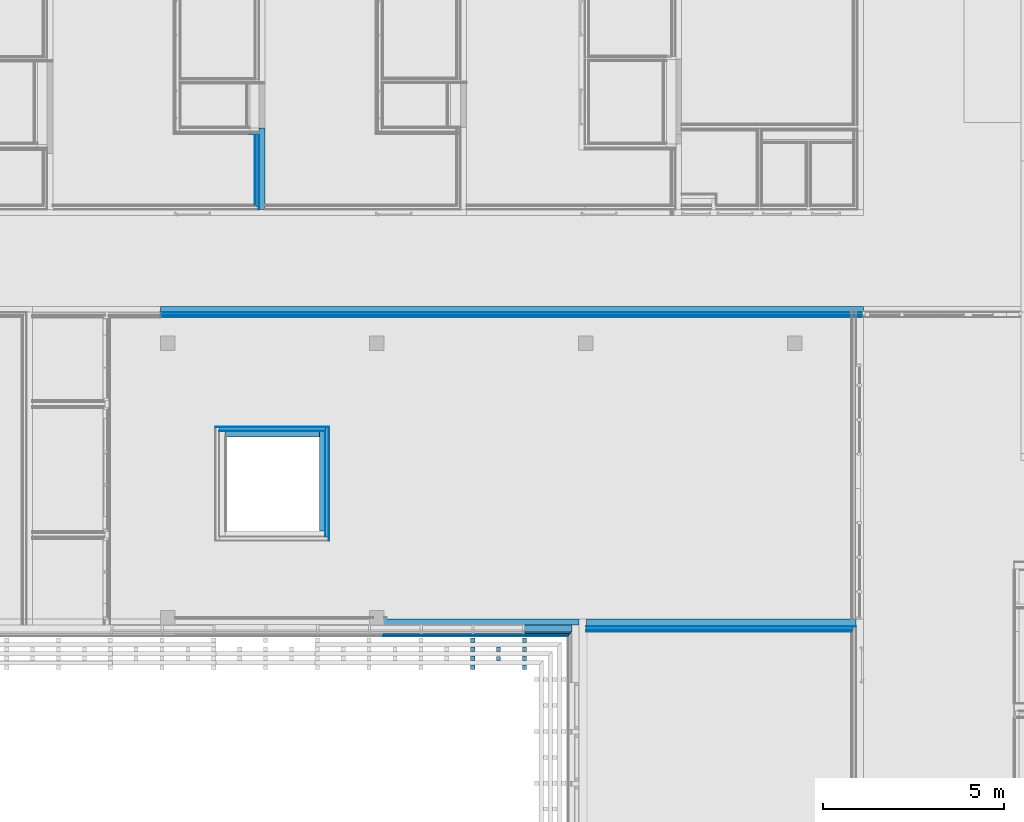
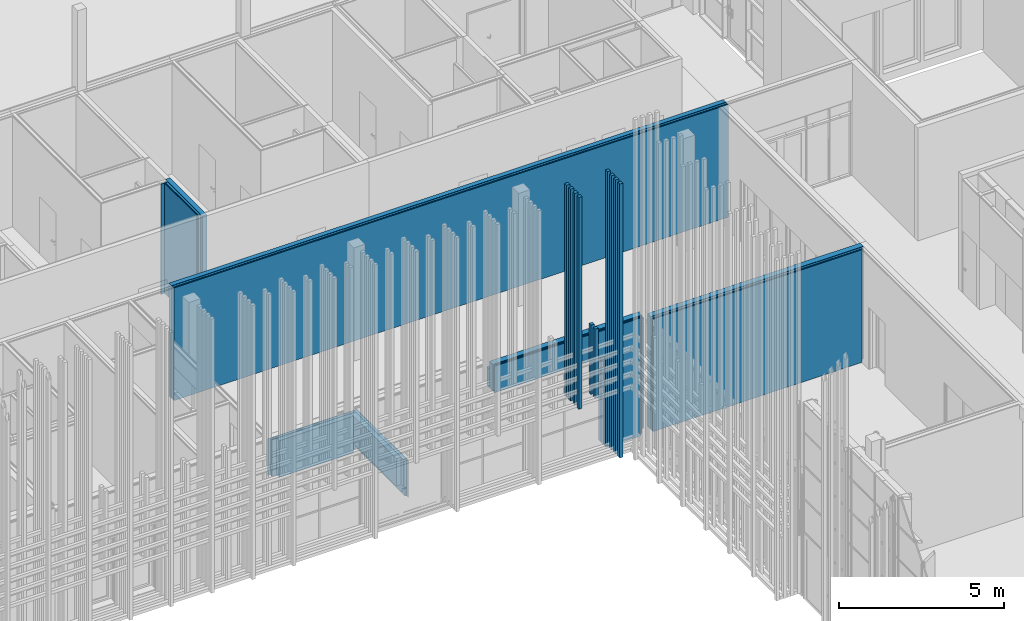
# One storey, part 160 of 260: 35 building element parts, 3 discrete accessories, 1 opening, 7 elements without a shape of their own.
"""IFC2X3 building model written with IfcOpenShell, lengths in millimetres."""

import ifcopenshell
import ifcopenshell.guid

model = None  # the IFC model being written
_history = None  # IfcOwnerHistory: only IFC2X3 demands one
_inside = {}  # id of a spatial element -> (the spatial element, [elements in it])
_under = {}  # id of a project, library or spatial element -> (it, [spatial elements below it])
_declared = {}  # id of a project -> (the project, [libraries it declares])
_typed = {}  # id of a type object -> (the type object, [elements of that type])
_made_of = {}  # id of a material, layer set ... -> (it, [elements and type objects made of it])


def new_model(schema):
    """Start an empty IFC model of exactly this schema.

    Asked for "IFC4X3", IfcOpenShell would pick the latest addendum, in which some entities
    have other attributes; the version numbers below select the first issue.
    IFC2X3 requires an IfcOwnerHistory on every rooted entity: one is made here for all.
    """
    global model, _history
    if schema == "IFC4X3":
        model = ifcopenshell.file(schema_version=(4, 3, 0, 0))
    else:
        model = ifcopenshell.file(schema=schema)
    _inside.clear()
    _under.clear()
    _declared.clear()
    _typed.clear()
    _made_of.clear()
    _history = None
    if model.schema == "IFC2X3":
        org = make("IfcOrganization", Name="unknown")
        user = make(
            "IfcPersonAndOrganization",
            ThePerson=make("IfcPerson", FamilyName="unknown"),
            TheOrganization=org,
        )
        app = make(
            "IfcApplication",
            ApplicationDeveloper=org,
            Version="unknown",
            ApplicationFullName="unknown",
            ApplicationIdentifier="unknown",
        )
        _history = make(
            "IfcOwnerHistory",
            OwningUser=user,
            OwningApplication=app,
            ChangeAction="ADDED",
            CreationDate=0,
        )
    return model


def make(cls, **values):
    """One entity of the class cls with the attributes given. An attribute that is None is left unset."""
    return model.create_entity(
        cls, **{name: value for name, value in values.items() if value is not None}
    )


def entity(cls, *values):
    """Any entity or typed value of the class cls, its attributes in the order of the schema. None: left unset."""
    e = model.create_entity(cls)
    for i, value in enumerate(values):
        if value is not None:
            e[i] = value
    return e


def rooted(cls, **values):
    """An entity with a GlobalId (a new one), such as an element, a storey or a relation."""
    return make(cls, GlobalId=ifcopenshell.guid.new(), OwnerHistory=_history, **values)


def si_unit(unit_type, name, prefix=None):
    """IfcSIUnit, for example si_unit("LENGTHUNIT", "METRE", prefix="MILLI")."""
    return make("IfcSIUnit", UnitType=unit_type, Prefix=prefix, Name=name)


def converted_unit(unit_type, name, factor, base, dimensions=None, offset=None):
    """IfcConversionBasedUnit, such as the inch: factor (a typed value) times the base unit."""
    return make(
        "IfcConversionBasedUnit"
        if offset is None
        else "IfcConversionBasedUnitWithOffset",
        ConversionOffset=offset,
        Dimensions=None
        if dimensions is None
        else entity("IfcDimensionalExponents", *dimensions),
        UnitType=unit_type,
        Name=name,
        ConversionFactor=make(
            "IfcMeasureWithUnit", ValueComponent=factor, UnitComponent=base
        ),
    )


def derived_unit(unit_type, elements):
    """IfcDerivedUnit: a product of units, each with its exponent."""
    return make(
        "IfcDerivedUnit",
        Elements=[
            make("IfcDerivedUnitElement", Unit=unit, Exponent=power)
            for unit, power in elements
        ],
        UnitType=unit_type,
    )


def money_unit(currency):
    """IfcMonetaryUnit."""
    return make("IfcMonetaryUnit", Currency=currency)


def assignment(units):
    """IfcUnitAssignment: the units of a project."""
    return None if units is None else make("IfcUnitAssignment", Units=units)


def point(xyz):
    """IfcCartesianPoint."""
    return None if xyz is None else make("IfcCartesianPoint", Coordinates=xyz)


def direction(xyz):
    """IfcDirection."""
    return None if xyz is None else make("IfcDirection", DirectionRatios=xyz)


def frame(location, z_axis=None, x_axis=None):
    """IfcAxis2Placement3D, a coordinate frame: its origin and axes. An axis left out is left unset."""
    return make(
        "IfcAxis2Placement3D",
        Location=point(location),
        Axis=direction(z_axis),
        RefDirection=direction(x_axis),
    )


def origin_with_axes():
    """The frame at (0, 0, 0) with the z axis (0, 0, 1) and the x axis (1, 0, 0) written out."""
    return frame((0.0, 0.0, 0.0), z_axis=(0.0, 0.0, 1.0), x_axis=(1.0, 0.0, 0.0))


def place(relative_to, where):
    """IfcLocalPlacement: puts the frame where relative to a parent placement (None: the world)."""
    return make(
        "IfcLocalPlacement", PlacementRelTo=relative_to, RelativePlacement=where
    )


def context(
    kind, dimensions, precision=None, world=None, true_north=None, identifier=None
):
    """IfcGeometricRepresentationContext, for example the 3D "Model" context."""
    return make(
        "IfcGeometricRepresentationContext",
        ContextIdentifier=identifier,
        ContextType=kind,
        CoordinateSpaceDimension=dimensions,
        Precision=precision,
        WorldCoordinateSystem=world,
        TrueNorth=true_north,
    )


def subcontext(parent, identifier, kind, view, scale=None):
    """IfcGeometricRepresentationSubContext, for example "Body" below "Model"."""
    return make(
        "IfcGeometricRepresentationSubContext",
        ContextIdentifier=identifier,
        ContextType=kind,
        ParentContext=parent,
        TargetScale=scale,
        TargetView=view,
    )


def project(units=None, contexts=None):
    """IfcProject with its units and contexts."""
    return rooted(
        "IfcProject",
        Name="project",
        RepresentationContexts=contexts,
        UnitsInContext=assignment(units),
    )


def spatial(cls, under=None, at=None, **own):
    """A site, building, storey or space (cls), placed at a placement, below another one or the project."""
    s = rooted(cls, ObjectPlacement=at, **own)
    if under is not None:
        _under.setdefault(under.id(), (under, []))[1].append(s)
    return s


def faces_of(points, faces, orient=None, outer=None):
    """IfcFace entities. A face is a list of loops; a loop is a list of indices into points, from 0.

    orient and outer hold one flag for each loop. By default every Orientation is true, the
    first loop of a face is its IfcFaceOuterBound and the others are IfcFaceBound.
    """
    made = []
    for i, loops in enumerate(faces):
        bounds = []
        for j, loop in enumerate(loops):
            is_outer = j == 0 if outer is None else outer[i][j]
            bounds.append(
                make(
                    "IfcFaceOuterBound" if is_outer else "IfcFaceBound",
                    Bound=make("IfcPolyLoop", Polygon=[points[k] for k in loop]),
                    Orientation=True if orient is None else orient[i][j],
                )
            )
        made.append(make("IfcFace", Bounds=bounds))
    return made


def faceted_brep(points, faces, orient=None, outer=None, voids=None):
    """IfcFacetedBrep: a solid bounded by flat faces; with voids (closed shells), ...WithVoids."""
    shared = [point(p) for p in points]
    hull = make("IfcClosedShell", CfsFaces=faces_of(shared, faces, orient, outer))
    if voids is None:
        return make("IfcFacetedBrep", Outer=hull)
    return make(
        "IfcFacetedBrepWithVoids",
        Outer=hull,
        Voids=[
            make(cls, CfsFaces=faces_of(shared, fs, o, b)) for cls, fs, o, b in voids
        ],
    )


def shape(context_of_items, identifier, shape_type, items):
    """IfcShapeRepresentation: the items that make up one representation, for example the "Body"."""
    return make(
        "IfcShapeRepresentation",
        ContextOfItems=context_of_items,
        RepresentationIdentifier=identifier,
        RepresentationType=shape_type,
        Items=items,
    )


def material(Name=None, Category=None):
    """IfcMaterial."""
    return make("IfcMaterial", Name=Name, Category=Category)


def material_list(materials):
    """IfcMaterialList."""
    return make("IfcMaterialList", Materials=materials)


def made_of(thing, what):
    """Note that an element or type object is made of a material, layer set ...; save() writes the relation."""
    if what is not None:
        _made_of.setdefault(what.id(), (what, []))[1].append(thing)
    return thing


def type_object(cls, material=None, **own):
    """A type object (cls), such as IfcWallType, which elements share."""
    return made_of(rooted(cls, **own), material)


def element(
    cls,
    number,
    at=None,
    inside=None,
    cuts=None,
    type_object=None,
    material=None,
    context=None,
    identifier="Body",
    shape_type=None,
    held_by="IfcProductDefinitionShape",
    body=None,
    shapes=None,
    **own,
):
    """One element of the class cls, such as IfcWall. Its Tag is "e" and its number.

    at: its placement. inside: the storey or other place that contains it. cuts: it is an
    opening in that element (IfcRelVoidsElement). A single representation is given by context,
    identifier, shape_type and body (its items); several are given by shapes. held_by: the class
    of the entity that holds the representations. save() writes the other relations.
    """
    e = rooted(cls, Tag="e%d" % number, ObjectPlacement=at, **own)
    if body is not None:
        shapes = [shape(context, identifier, shape_type, body)]
    if shapes is not None:
        e.Representation = make(held_by, Representations=shapes)
    if inside is not None:
        _inside.setdefault(inside.id(), (inside, []))[1].append(e)
    if cuts is not None:
        rooted(
            "IfcRelVoidsElement", RelatingBuildingElement=cuts, RelatedOpeningElement=e
        )
    if type_object is not None:
        _typed.setdefault(type_object.id(), (type_object, []))[1].append(e)
    return made_of(e, material)


def aggregate(whole, parts):
    """IfcRelAggregates: a whole, such as a stair, and the parts it consists of."""
    return rooted("IfcRelAggregates", RelatingObject=whole, RelatedObjects=parts)


def save(model, path):
    """Write the relations noted so far, then the file.

    IfcRelAggregates (storeys below a building ...), IfcRelContainedInSpatialStructure (elements
    in a storey), IfcRelDefinesByType, IfcRelAssociatesMaterial and IfcRelDeclares: one each for
    every whole, place, type object, material and project.
    """
    for whole, parts in _under.values():
        aggregate(whole, parts)
    for where, things in _inside.values():
        rooted(
            "IfcRelContainedInSpatialStructure",
            RelatedElements=things,
            RelatingStructure=where,
        )
    for kind, things in _typed.values():
        rooted("IfcRelDefinesByType", RelatedObjects=things, RelatingType=kind)
    for what, things in _made_of.values():
        rooted("IfcRelAssociatesMaterial", RelatedObjects=things, RelatingMaterial=what)
    for by, libraries in _declared.values():
        rooted("IfcRelDeclares", RelatingContext=by, RelatedDefinitions=libraries)
    model.write(path)


model = new_model("IFC2X3")

# Units and contexts
model_context = context("Model", 3, precision=0.01, world=origin_with_axes(), true_north=direction((0.0, 1.0)))
body_context = subcontext(model_context, "Body", "Model", "MODEL_VIEW")
ifc_project = project(units=[si_unit("LENGTHUNIT", "METRE", prefix="MILLI"), si_unit("AREAUNIT", "SQUARE_METRE"), si_unit("VOLUMEUNIT", "CUBIC_METRE"), converted_unit("PLANEANGLEUNIT", "DEGREE", entity("IfcPlaneAngleMeasure", 0.0174532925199), si_unit("PLANEANGLEUNIT", "RADIAN"), dimensions=[0, 0, 0, 0, 0, 0, 0]), money_unit("EUR"), converted_unit("TIMEUNIT", "Year", entity("IfcTimeMeasure", 31556926.0), si_unit("TIMEUNIT", "SECOND"), dimensions=[0, 0, 1, 0, 0, 0, 0]), si_unit("MASSUNIT", "GRAM", prefix="KILO"), si_unit("THERMODYNAMICTEMPERATUREUNIT", "DEGREE_CELSIUS"), si_unit("LUMINOUSINTENSITYUNIT", "LUMEN"), si_unit("ENERGYUNIT", "JOULE", prefix="MEGA"), derived_unit("THERMALCONDUCTANCEUNIT", [(si_unit("POWERUNIT", "WATT"), 1), (si_unit("LENGTHUNIT", "METRE"), -1), (si_unit("THERMODYNAMICTEMPERATUREUNIT", "KELVIN"), -1)]), derived_unit("SPECIFICHEATCAPACITYUNIT", [(si_unit("ENERGYUNIT", "JOULE"), 1), (si_unit("MASSUNIT", "GRAM", prefix="KILO"), -1), (si_unit("THERMODYNAMICTEMPERATUREUNIT", "KELVIN"), -1)]), derived_unit("MASSDENSITYUNIT", [(si_unit("MASSUNIT", "GRAM", prefix="KILO"), 1), (si_unit("VOLUMEUNIT", "CUBIC_METRE"), -1)])], contexts=[model_context])

# Site, building, storey
site_placement = place(None, origin_with_axes())
site = spatial("IfcSite", under=ifc_project, at=site_placement, Name="Kolde pst 67a", CompositionType="ELEMENT")
building_placement = place(site_placement, origin_with_axes())
building = spatial("IfcBuilding", under=site, at=building_placement, Name="Riigigümnaasium", CompositionType="ELEMENT")
storey_placement = place(building_placement, origin_with_axes())
storey = spatial("IfcBuildingStorey", under=building, at=storey_placement, Name="1. korrus", CompositionType="ELEMENT", Elevation=0.0)

# Discrete accessories
ifc_material_1 = material(Name="_VÄLISVIIMISTLUS - sõrmjätkatud puitprussid 120x115mm, liitekohad vähemärgatavad, Platowood sõrmjätkatud kuusk või samaväärne; eeltöödeldud tuletõkkevõõbaga, tuletundlikkus B-s1, d0, Woodsafe Exterior WFX™ või samaväärne; kinnitused vastavalt EK osale")
ifc_material_list_1 = material_list([ifc_material_1, ifc_material_1, ifc_material_1, ifc_material_1])
discrete_accessory_type_1 = type_object("IfcDiscreteAccessoryType", Name="120 4-ne vertikaalne 870 x 115")
discrete_accessory_1_placement = place(storey_placement, frame((21087.5026332, 47693.7206635, 2580.00014213), z_axis=(0.0, 0.0, 1.0), x_axis=(5.86859191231e-05, 0.999999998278, 0.0)))
element("IfcDiscreteAccessory", 1, at=discrete_accessory_1_placement, inside=storey, type_object=discrete_accessory_type_1, material=ifc_material_list_1, Name="Päikesevarjestus", context=body_context, shape_type="Brep", body=[
    faceted_brep([(-133.0, -70.0, 0.0), (-13.0, -70.0, 0.0), (-13.0, -70.0, 7839.99985787), (-133.0, -70.0, 7839.99985787), (-133.0, 45.0, 0.0), (-13.0, 45.0, 0.0), (-13.0, 45.0, 7839.99985787), (-133.0, 45.0, 7839.99985787)], [[[0, 1, 2, 3]], [[0, 4, 5, 1]], [[1, 5, 6, 2]], [[3, 2, 6, 7]], [[4, 0, 3, 7]], [[5, 4, 7, 6]]]),
    faceted_brep([(-383.0, -70.0, 0.0), (-263.0, -70.0, 0.0), (-263.0, -70.0, 7839.99985787), (-383.0, -70.0, 7839.99985787), (-383.0, 45.0, 0.0), (-263.0, 45.0, 0.0), (-263.0, 45.0, 7839.99985787), (-383.0, 45.0, 7839.99985787)], [[[0, 1, 2, 3]], [[0, 4, 5, 1]], [[1, 5, 6, 2]], [[3, 2, 6, 7]], [[4, 0, 3, 7]], [[5, 4, 7, 6]]]),
    faceted_brep([(-633.0, -70.0, 0.0), (-513.0, -70.0, 0.0), (-513.0, -70.0, 7839.99985787), (-633.0, -70.0, 7839.99985787), (-633.0, 45.0, 0.0), (-513.0, 45.0, 0.0), (-513.0, 45.0, 7839.99985787), (-633.0, 45.0, 7839.99985787)], [[[0, 1, 2, 3]], [[0, 4, 5, 1]], [[1, 5, 6, 2]], [[3, 2, 6, 7]], [[4, 0, 3, 7]], [[5, 4, 7, 6]]]),
    faceted_brep([(-883.0, -70.0, 0.0), (-763.0, -70.0, 0.0), (-763.0, -70.0, 7839.99985787), (-883.0, -70.0, 7839.99985787), (-883.0, 45.0, 0.0), (-763.0, 45.0, 0.0), (-763.0, 45.0, 7839.99985787), (-883.0, 45.0, 7839.99985787)], [[[0, 1, 2, 3]], [[0, 4, 5, 1]], [[1, 5, 6, 2]], [[3, 2, 6, 7]], [[4, 0, 3, 7]], [[5, 4, 7, 6]]]),
])
discrete_accessory_2_placement = place(storey_placement, frame((22517.503672, 47693.7206635, 280.0), z_axis=(0.0, 0.0, 1.0), x_axis=(5.86859191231e-05, 0.999999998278, 0.0)))
element("IfcDiscreteAccessory", 2, at=discrete_accessory_2_placement, inside=storey, type_object=discrete_accessory_type_1, material=ifc_material_list_1, Name="Päikesevarjestus", context=body_context, shape_type="Brep", body=[
    faceted_brep([(-133.0, -70.0, 0.0), (-13.0, -70.0, 0.0), (-13.0, -70.0, 10140.0), (-133.0, -70.0, 10140.0), (-133.0, 45.0, 0.0), (-13.0, 45.0, 0.0), (-13.0, 45.0, 10140.0), (-133.0, 45.0, 10140.0)], [[[0, 1, 2, 3]], [[0, 4, 5, 1]], [[1, 5, 6, 2]], [[3, 2, 6, 7]], [[4, 0, 3, 7]], [[5, 4, 7, 6]]]),
    faceted_brep([(-383.0, -70.0, 0.0), (-263.0, -70.0, 0.0), (-263.0, -70.0, 10140.0), (-383.0, -70.0, 10140.0), (-383.0, 45.0, 0.0), (-263.0, 45.0, 0.0), (-263.0, 45.0, 10140.0), (-383.0, 45.0, 10140.0)], [[[0, 1, 2, 3]], [[0, 4, 5, 1]], [[1, 5, 6, 2]], [[3, 2, 6, 7]], [[4, 0, 3, 7]], [[5, 4, 7, 6]]]),
    faceted_brep([(-633.0, -70.0, 0.0), (-513.0, -70.0, 0.0), (-513.0, -70.0, 10140.0), (-633.0, -70.0, 10140.0), (-633.0, 45.0, 0.0), (-513.0, 45.0, 0.0), (-513.0, 45.0, 10140.0), (-633.0, 45.0, 10140.0)], [[[0, 1, 2, 3]], [[0, 4, 5, 1]], [[1, 5, 6, 2]], [[3, 2, 6, 7]], [[4, 0, 3, 7]], [[5, 4, 7, 6]]]),
    faceted_brep([(-883.0, -70.0, 0.0), (-763.0, -70.0, 0.0), (-763.0, -70.0, 10140.0), (-883.0, -70.0, 10140.0), (-883.0, 45.0, 0.0), (-763.0, 45.0, 0.0), (-763.0, 45.0, 10140.0), (-883.0, 45.0, 10140.0)], [[[0, 1, 2, 3]], [[0, 4, 5, 1]], [[1, 5, 6, 2]], [[3, 2, 6, 7]], [[4, 0, 3, 7]], [[5, 4, 7, 6]]]),
])
ifc_material_list_2 = material_list([ifc_material_1, ifc_material_1])
discrete_accessory_type_2 = type_object("IfcDiscreteAccessoryType", Name="1+paiksekaitse 3 370 x 115")
discrete_accessory_3_placement = place(storey_placement, frame((21873.9720913, 46709.4007448, 2580.00014213), z_axis=(0.0, 0.0, 1.0), x_axis=(0.0, 1.0, 0.0)))
element("IfcDiscreteAccessory", 3, at=discrete_accessory_3_placement, inside=storey, type_object=discrete_accessory_type_2, material=ifc_material_list_2, Name="Päikesevarjestus", context=body_context, shape_type="Brep", body=[
    faceted_brep([(467.0, 117.5, 0.0), (347.0, 117.5, 0.0), (347.0, 117.5, 2570.0), (467.0, 117.5, 2570.0), (467.0, 2.5, 0.0), (347.0, 2.5, 0.0), (347.0, 2.5, 2570.0), (467.0, 2.5, 2570.0)], [[[0, 1, 2, 3]], [[0, 4, 5, 1]], [[1, 5, 6, 2]], [[3, 2, 6, 7]], [[4, 0, 3, 7]], [[5, 4, 7, 6]]]),
    faceted_brep([(717.0, 117.5, 0.0), (597.0, 117.5, 0.0), (597.0, 117.5, 2570.0), (717.0, 117.5, 2570.0), (717.0, 2.5, 0.0), (597.0, 2.5, 0.0), (597.0, 2.5, 2570.0), (717.0, 2.5, 2570.0)], [[[0, 1, 2, 3]], [[0, 4, 5, 1]], [[1, 5, 6, 2]], [[3, 2, 6, 7]], [[4, 0, 3, 7]], [[5, 4, 7, 6]]]),
])

# Wall, building element parts
wall_type_1 = type_object("IfcWallType", Name="SS-CLT-20/1_vill+krohv 340", PredefinedType="NOTDEFINED")
wall_1_placement = place(storey_placement, frame((24240.0027342, 48199.9805239, 0.0), z_axis=(0.0, 0.0, 1.0), x_axis=(1.0, 0.0, 0.0)))
wall_1 = element("IfcWall", 4, at=wall_1_placement, inside=storey, type_object=wall_type_1, Name="Sisesein")
ifc_material_2 = material(Name="_KANDETARIND - CLT ristkihtliimpuit vastavalt EK osale, CLT paigaldusvuugid teibitakse ROTHOBLAAS teibiga")
building_element_part_1_placement = place(wall_1_placement, origin_with_axes())
building_element_part_1 = element("IfcBuildingElementPart", 5, at=building_element_part_1_placement, material=ifc_material_2, Name="_KANDETARIND - CLT ristkihtliimpuit vastavalt EK osale, CLT paigaldusvuugid teibitakse ROTHOBLAAS teibiga", context=body_context, shape_type="Brep", body=[
    faceted_brep([(0.0, 0.0, 4170.0), (7450.00004529, 0.0, 4170.0), (7450.00004529, 0.0, 0.0), (0.0, 0.0, 0.0), (0.0, -200.0, 4170.0), (7450.00004529, -200.0, 4170.0), (7450.00004529, -200.0, 0.0), (0.0, -200.0, 0.0)], [[[0, 1, 2, 3]], [[1, 0, 4, 5]], [[1, 5, 6, 2]], [[3, 2, 6, 7]], [[0, 3, 7, 4]], [[5, 4, 7, 6]]]),
])
ifc_material_3 = material(Name="_ÕHKVAHE")
building_element_part_2_placement = place(wall_1_placement, origin_with_axes())
building_element_part_2 = element("IfcBuildingElementPart", 6, at=building_element_part_2_placement, material=ifc_material_3, Name="_ÕHKVAHE", context=body_context, shape_type="Brep", body=[
    faceted_brep([(0.0, -200.0, 4170.0), (7435.00004529, -200.0, 4170.0), (7435.00004529, -200.0, 0.0), (0.0, -200.0, 0.0), (7435.00004529, -215.0, 4170.0), (0.0, -215.0, 4170.0), (7435.00004529, -215.0, 0.0), (0.0, -215.0, 0.0)], [[[0, 1, 2, 3]], [[4, 1, 0, 5]], [[1, 4, 6, 2]], [[3, 2, 6, 7]], [[5, 0, 3, 7]], [[4, 5, 7, 6]]]),
])
ifc_material_4 = material(Name="_KARKASS - metallkarkass CW 75/50/06 ja UW 75/40/06, samm 600, vahel mineraalvill, helineeldetegur αw = 1.0,  ISOVER ACOUSTIC 75mm või samaväärne")
building_element_part_3_placement = place(wall_1_placement, origin_with_axes())
building_element_part_3 = element("IfcBuildingElementPart", 7, at=building_element_part_3_placement, material=ifc_material_4, Name="_KARKASS - metallkarkass CW 75/50/06 ja UW 75/40/06, samm 600, vahel mineraalvill, helineeldetegur αw = 1.0,  ISOVER ACOUSTIC 75mm või samaväärne", context=body_context, shape_type="Brep", body=[
    faceted_brep([(0.0, -215.0, 4170.0), (7360.00004529, -215.0, 4170.0), (7360.00004529, -215.0, 0.0), (0.0, -215.0, 0.0), (7360.00004529, -290.0, 4170.0), (0.0, -290.0, 4170.0), (7360.00004529, -290.0, 0.0), (0.0, -290.0, 0.0)], [[[0, 1, 2, 3]], [[4, 1, 0, 5]], [[1, 4, 6, 2]], [[3, 2, 6, 7]], [[5, 0, 3, 7]], [[4, 5, 7, 6]]]),
])
ifc_material_5 = material(Name="_PLAATMATERJAL - OSB3 plaat")
building_element_part_4_placement = place(wall_1_placement, origin_with_axes())
building_element_part_4 = element("IfcBuildingElementPart", 8, at=building_element_part_4_placement, material=ifc_material_5, Name="_PLAATMATERJAL - OSB3 plaat", context=body_context, shape_type="Brep", body=[
    faceted_brep([(0.0, -290.0, 4170.0), (7350.00004529, -290.0, 4170.0), (7350.00004529, -290.0, 0.0), (0.0, -290.0, 0.0), (7350.00004529, -300.0, 4170.0), (0.0, -300.0, 4170.0), (7350.00004529, -300.0, 0.0), (0.0, -300.0, 0.0)], [[[0, 1, 2, 3]], [[4, 1, 0, 5]], [[1, 4, 6, 2]], [[3, 2, 6, 7]], [[5, 0, 3, 7]], [[4, 5, 7, 6]]]),
])
ifc_material_6 = material(Name="_PLAATMATERJAL - tuletõkkekipsplaat, Knauf Red GKF või samaväärne")
building_element_part_5_placement = place(wall_1_placement, origin_with_axes())
building_element_part_5 = element("IfcBuildingElementPart", 9, at=building_element_part_5_placement, material=ifc_material_6, Name="_PLAATMATERJAL - tuletõkkekipsplaat, Knauf Red GKF või samaväärne", context=body_context, shape_type="Brep", body=[
    faceted_brep([(0.0, -300.0, 4170.0), (7335.00004529, -300.0, 4170.0), (7335.00004529, -300.0, 0.0), (0.0, -300.0, 0.0), (7335.00004529, -315.0, 4170.0), (0.0, -315.0, 4170.0), (7335.00004529, -315.0, 0.0), (0.0, -315.0, 0.0)], [[[0, 1, 2, 3]], [[4, 1, 0, 5]], [[1, 4, 6, 2]], [[3, 2, 6, 7]], [[5, 0, 3, 7]], [[4, 5, 7, 6]]]),
])
building_element_part_6_placement = place(wall_1_placement, origin_with_axes())
building_element_part_6 = element("IfcBuildingElementPart", 10, at=building_element_part_6_placement, material=ifc_material_6, Name="_PLAATMATERJAL - tuletõkkekipsplaat, Knauf Red GKF või samaväärne", context=body_context, shape_type="Brep", body=[
    faceted_brep([(0.0, -315.0, 4170.0), (7320.00004529, -315.0, 4170.0), (7320.00004529, -315.0, 0.0), (0.0, -315.0, 0.0), (7320.00004529, -330.0, 4170.0), (0.0, -330.0, 4170.0), (7320.00004529, -330.0, 0.0), (0.0, -330.0, 0.0)], [[[0, 1, 2, 3]], [[4, 1, 0, 5]], [[1, 4, 6, 2]], [[3, 2, 6, 7]], [[5, 0, 3, 7]], [[4, 5, 7, 6]]]),
])
ifc_material_7 = material(Name="_VIIMISTLUSKIHT - viimistlus vastavalt SA osale")
building_element_part_7_placement = place(wall_1_placement, origin_with_axes())
building_element_part_7 = element("IfcBuildingElementPart", 11, at=building_element_part_7_placement, material=ifc_material_7, Name="_VIIMISTLUSKIHT - viimistlus vastavalt SA osale", context=body_context, shape_type="Brep", body=[
    faceted_brep([(0.0, -330.0, 4170.0), (7310.00004529, -330.0, 4170.0), (7310.00004529, -330.0, 0.0), (0.0, -330.0, 0.0), (7310.00004529, -340.0, 4170.0), (0.0, -340.0, 4170.0), (7310.00004529, -340.0, 0.0), (0.0, -340.0, 0.0)], [[[0, 1, 2, 3]], [[4, 1, 0, 5]], [[1, 4, 6, 2]], [[3, 2, 6, 7]], [[5, 0, 3, 7]], [[4, 5, 7, 6]]]),
])
aggregate(wall_1, [building_element_part_1, building_element_part_2, building_element_part_3, building_element_part_4, building_element_part_5, building_element_part_6, building_element_part_7])

# Wall, building element part
wall_type_2 = type_object("IfcWallType", Name="SS-MK-10/4_šahti sein+dold  160", PredefinedType="NOTDEFINED")
wall_2_placement = place(storey_placement, frame((15360.0, 61598.0056602, 0.0), z_axis=(0.0, 0.0, 1.0), x_axis=(-1.0, 0.0, 0.0)))
wall_2 = element("IfcWall", 12, at=wall_2_placement, inside=storey, type_object=wall_type_2, Name="Sisesein")
ifc_material_8 = material(Name="_VIIMISTLUSKIHT - Dold plaat vastavalt SA osale")
building_element_part_8_placement = place(wall_2_placement, origin_with_axes())
building_element_part_8 = element("IfcBuildingElementPart", 13, at=building_element_part_8_placement, material=ifc_material_8, Name="_VIIMISTLUSKIHT - Dold plaat vastavalt SA osale", context=body_context, shape_type="Brep", body=[
    faceted_brep([(411.259785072, -20.0, 4080.0), (160.0, -20.0, 4080.0), (160.0, -20.0, 0.0), (411.259785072, -20.0, 0.0), (160.0, 0.0, 4080.0), (411.259785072, 0.0, 4080.0), (160.0, 0.0, 0.0), (411.259785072, 0.0, 0.0)], [[[0, 1, 2, 3]], [[4, 1, 0, 5]], [[1, 4, 6, 2]], [[6, 7, 3, 2]], [[5, 0, 3, 7]], [[4, 5, 7, 6]]]),
])
aggregate(wall_2, [building_element_part_8])

# Wall, building element parts
wall_type_3 = type_object("IfcWallType", Name="VS-RB-16/1_mullakast 273", PredefinedType="NOTDEFINED")
wall_3_placement = place(storey_placement, frame((17025.000519, 50474.9876282, -1460.1), z_axis=(0.0, 0.0, 1.0), x_axis=(0.0, 1.0, 0.0)))
wall_3 = element("IfcWall", 14, at=wall_3_placement, inside=storey, type_object=wall_type_3, Name="taimekast")
ifc_material_9 = material(Name="_KANDETARIND - monoliitne raudbetoon vastavalt EK osale")
building_element_part_9_placement = place(wall_3_placement, origin_with_axes())
building_element_part_9 = element("IfcBuildingElementPart", 15, at=building_element_part_9_placement, material=ifc_material_9, Name="_KANDETARIND - monoliitne raudbetoon vastavalt EK osale", context=body_context, shape_type="Brep", body=[
    faceted_brep([(160.0, 0.0, 350.1), (2920.0, 0.0, 350.1), (2920.0, 0.0, 1360.1), (160.0, 0.0, 1360.1), (2920.0, 160.0, 350.1), (160.0, 160.0, 350.1), (2920.0, 160.0, 1360.1), (160.0, 160.0, 1360.1)], [[[0, 1, 2, 3]], [[4, 1, 0, 5]], [[1, 4, 6, 2]], [[2, 6, 7, 3]], [[5, 0, 3, 7]], [[4, 5, 7, 6]]]),
])
ifc_material_10 = material(Name="_HÜDROISOLATSIOON/RADOONITÕKE - eelpaigaldatav elastne hüdroisolatsioonimembraan, värske betooniga nakkuv, radoonitihe, FORSOC PROOFEX 3000 või samaväärne")
building_element_part_10_placement = place(wall_3_placement, origin_with_axes())
building_element_part_10 = element("IfcBuildingElementPart", 16, at=building_element_part_10_placement, material=ifc_material_10, Name="_HÜDROISOLATSIOON/RADOONITÕKE - eelpaigaldatav elastne hüdroisolatsioonimembraan, värske betooniga nakkuv, radoonitihe, FORSOC PROOFEX 3000 või samaväärne", context=body_context, shape_type="Brep", body=[
    faceted_brep([(0.0, -3.0, 350.1), (2923.0, -3.0, 350.1), (2923.0, -3.0, 1360.1), (0.0, -3.0, 1360.1), (2923.0, 0.0, 350.1), (0.0, 0.0, 350.1), (2923.0, 0.0, 1360.1), (0.0, 0.0, 1360.1)], [[[0, 1, 2, 3]], [[4, 1, 0, 5]], [[1, 4, 6, 2]], [[2, 6, 7, 3]], [[5, 0, 3, 7]], [[4, 5, 7, 6]]]),
])
ifc_material_11 = material(Name="_SOOJUSTUS - vahtpolüstüreenplaadid EPS 120 Perimeeter, survetugevus min. 120kPa, veeimavus <2%, soojuserijuhtivus λD<0,036 W/(mK)")
building_element_part_11_placement = place(wall_3_placement, origin_with_axes())
building_element_part_11 = element("IfcBuildingElementPart", 17, at=building_element_part_11_placement, material=ifc_material_11, Name="_SOOJUSTUS - vahtpolüstüreenplaadid EPS 120 Perimeeter, survetugevus min. 120kPa, veeimavus <2%, soojuserijuhtivus λD<0,036 W/(mK)", context=body_context, shape_type="Brep", body=[
    faceted_brep([(2963.0, -43.0, 0.0), (2963.0, -3.0, 0.0), (3023.0, -3.0, 0.0), (3023.0, -103.0, 0.0), (-3.0, -103.0, 0.0), (-3.0, -43.0, 0.0), (2963.0, -43.0, 350.1), (2963.0, -3.0, 350.1), (-3.0, -3.0, 350.1), (-3.0, -3.0, 1360.1), (3023.0, -3.0, 1360.1), (3023.0, -103.0, 1360.1), (-3.0, -103.0, 1360.1), (-3.0, -43.0, 350.1)], [[[0, 1, 2, 3, 4, 5]], [[1, 0, 6, 7]], [[7, 8, 9, 10, 2, 1]], [[3, 2, 10, 11]], [[3, 11, 12, 4]], [[13, 5, 4, 12, 9, 8]], [[0, 5, 13, 6]], [[13, 8, 7, 6]], [[11, 10, 9, 12]]]),
])
ifc_material_12 = material(Name="_ALUSKATE - drenaaži- ja kaitsematt geotekstiiliga soojustuse kaitseks, Interplast Iso-Drain 8 Geo või samaväärne")
building_element_part_12_placement = place(wall_3_placement, origin_with_axes())
building_element_part_12 = element("IfcBuildingElementPart", 18, at=building_element_part_12_placement, material=ifc_material_12, Name="_ALUSKATE - drenaaži- ja kaitsematt geotekstiiliga soojustuse kaitseks, Interplast Iso-Drain 8 Geo või samaväärne", context=body_context, shape_type="Brep", body=[
    faceted_brep([(3033.0, -113.0, 0.0), (-103.0, -113.0, 0.0), (-103.0, -103.0, 0.0), (3033.0, -103.0, 0.0), (3033.0, -113.0, 1360.1), (-103.0, -113.0, 1360.1), (-103.0, -103.0, 1360.1), (3033.0, -103.0, 1360.1)], [[[0, 1, 2, 3]], [[4, 5, 1, 0]], [[2, 1, 5, 6]], [[3, 2, 6, 7]], [[3, 7, 4, 0]], [[7, 6, 5, 4]]]),
])
aggregate(wall_3, [building_element_part_9, building_element_part_10, building_element_part_11, building_element_part_12])

wall_4_placement = place(storey_placement, frame((17025.000519, 53394.9876282, -1460.1), z_axis=(0.0, 0.0, 1.0), x_axis=(-1.0, 0.0, 0.0)))
wall_4 = element("IfcWall", 19, at=wall_4_placement, inside=storey, type_object=wall_type_3, Name="taimekast")
building_element_part_13_placement = place(wall_4_placement, origin_with_axes())
building_element_part_13 = element("IfcBuildingElementPart", 20, at=building_element_part_13_placement, material=ifc_material_9, Name="_KANDETARIND - monoliitne raudbetoon vastavalt EK osale", context=body_context, shape_type="Brep", body=[
    faceted_brep([(2760.0, 0.0, 0.0), (160.0, 0.0, 0.0), (160.0, 160.0, 0.0), (2760.0, 160.0, 0.0), (2760.0, 0.0, 1360.1), (160.0, 0.0, 1360.1), (160.0, 160.0, 1360.1), (2760.0, 160.0, 1360.1)], [[[0, 1, 2, 3]], [[4, 5, 1, 0]], [[2, 1, 5, 6]], [[3, 2, 6, 7]], [[3, 7, 4, 0]], [[7, 6, 5, 4]]]),
])
building_element_part_14_placement = place(wall_4_placement, origin_with_axes())
building_element_part_14 = element("IfcBuildingElementPart", 21, at=building_element_part_14_placement, material=ifc_material_10, Name="_HÜDROISOLATSIOON/RADOONITÕKE - eelpaigaldatav elastne hüdroisolatsioonimembraan, värske betooniga nakkuv, radoonitihe, FORSOC PROOFEX 3000 või samaväärne", context=body_context, shape_type="Brep", body=[
    faceted_brep([(2920.0, -3.0, 0.0), (0.0, -3.0, 0.0), (0.0, 0.0, 0.0), (2920.0, 0.0, 0.0), (2920.0, -3.0, 1360.1), (0.0, -3.0, 1360.1), (0.0, 0.0, 1360.1), (2920.0, 0.0, 1360.1)], [[[0, 1, 2, 3]], [[4, 5, 1, 0]], [[2, 1, 5, 6]], [[3, 2, 6, 7]], [[3, 7, 4, 0]], [[7, 6, 5, 4]]]),
])
building_element_part_15_placement = place(wall_4_placement, origin_with_axes())
building_element_part_15 = element("IfcBuildingElementPart", 22, at=building_element_part_15_placement, material=ifc_material_11, Name="_SOOJUSTUS - vahtpolüstüreenplaadid EPS 120 Perimeeter, survetugevus min. 120kPa, veeimavus <2%, soojuserijuhtivus λD<0,036 W/(mK)", context=body_context, shape_type="Brep", body=[
    faceted_brep([(2923.0, -103.0, 0.0), (-3.0, -103.0, 0.0), (-3.0, -3.0, 0.0), (2923.0, -3.0, 0.0), (2923.0, -103.0, 1360.1), (-3.0, -103.0, 1360.1), (-3.0, -3.0, 1360.1), (2923.0, -3.0, 1360.1)], [[[0, 1, 2, 3]], [[4, 5, 1, 0]], [[2, 1, 5, 6]], [[3, 2, 6, 7]], [[3, 7, 4, 0]], [[7, 6, 5, 4]]]),
])
building_element_part_16_placement = place(wall_4_placement, origin_with_axes())
building_element_part_16 = element("IfcBuildingElementPart", 23, at=building_element_part_16_placement, material=ifc_material_12, Name="_ALUSKATE - drenaaži- ja kaitsematt geotekstiiliga soojustuse kaitseks, Interplast Iso-Drain 8 Geo või samaväärne", context=body_context, shape_type="Brep", body=[
    faceted_brep([(3023.0, -113.0, 0.0), (-103.0, -113.0, 0.0), (-103.0, -103.0, 0.0), (3023.0, -103.0, 0.0), (3023.0, -113.0, 1360.1), (-103.0, -113.0, 1360.1), (-103.0, -103.0, 1360.1), (3023.0, -103.0, 1360.1)], [[[0, 1, 2, 3]], [[4, 5, 1, 0]], [[2, 1, 5, 6]], [[3, 2, 6, 7]], [[3, 7, 4, 0]], [[7, 6, 5, 4]]]),
])
aggregate(wall_4, [building_element_part_13, building_element_part_14, building_element_part_15, building_element_part_16])

wall_type_4 = type_object("IfcWallType", Name="SS-CLT-16/3_vill+plaat märgruumid 285", PredefinedType="NOTDEFINED")
wall_5_placement = place(storey_placement, frame((15360.0, 61598.0056602, 0.0), z_axis=(0.0, 0.0, 1.0), x_axis=(0.0, -1.0, 0.0)))
wall_5 = element("IfcWall", 24, at=wall_5_placement, inside=storey, type_object=wall_type_4, Name="Sisesein")
building_element_part_17_placement = place(wall_5_placement, origin_with_axes())
building_element_part_17 = element("IfcBuildingElementPart", 25, at=building_element_part_17_placement, material=ifc_material_2, Name="_KANDETARIND - CLT ristkihtliimpuit vastavalt EK osale, CLT paigaldusvuugid teibitakse ROTHOBLAAS teibiga", context=body_context, shape_type="Brep", body=[
    faceted_brep([(-160.0, -160.0, 4080.0), (-160.0, 0.0, 4080.0), (-160.0, 0.0, 0.0), (-160.0, -160.0, 0.0), (2088.00782811, -160.0, 4080.0), (2088.0077124, 0.0, 4080.0), (2088.0077124, 0.0, 0.0), (2088.0077124, -160.0, 0.0)], [[[0, 1, 2, 3]], [[1, 0, 4, 5]], [[1, 5, 6, 2]], [[2, 6, 7, 3]], [[4, 0, 3, 7]], [[4, 7, 6, 5]]]),
])
building_element_part_18_placement = place(wall_5_placement, origin_with_axes())
building_element_part_18 = element("IfcBuildingElementPart", 26, at=building_element_part_18_placement, material=ifc_material_3, Name="_ÕHKVAHE", context=body_context, shape_type="Brep", body=[
    faceted_brep([(0.0, -170.0, 4080.0), (0.0, -160.0, 4080.0), (0.0, -160.0, 0.0), (0.0, -170.0, 0.0), (2073.0077124, -160.0, 4080.0), (2073.0077124, -170.0, 4080.0), (2073.0077124, -160.0, 0.0), (2073.0077124, -170.0, 0.0)], [[[0, 1, 2, 3]], [[4, 1, 0, 5]], [[1, 4, 6, 2]], [[6, 7, 3, 2]], [[5, 0, 3, 7]], [[4, 5, 7, 6]]]),
])
ifc_material_13 = material(Name="_KARKASS - metallkarkass CW 75/50/06 ja UW 75/40/06, samm 600")
building_element_part_19_placement = place(wall_5_placement, origin_with_axes())
building_element_part_19 = element("IfcBuildingElementPart", 27, at=building_element_part_19_placement, material=ifc_material_13, Name="_KARKASS - metallkarkass CW 75/50/06 ja UW 75/40/06, samm 600", context=body_context, shape_type="Brep", body=[
    faceted_brep([(0.0, -245.0, 4080.0), (0.0, -170.0, 4080.0), (0.0, -170.0, 0.0), (0.0, -245.0, 0.0), (1998.0077124, -170.0, 4080.0), (1998.0077124, -245.0, 4080.0), (1998.0077124, -170.0, 0.0), (1998.0077124, -245.0, 0.0)], [[[0, 1, 2, 3]], [[4, 1, 0, 5]], [[1, 4, 6, 2]], [[6, 7, 3, 2]], [[5, 0, 3, 7]], [[4, 5, 7, 6]]]),
])
ifc_material_14 = material(Name="_PLAATMATERJAL - kipsplaat veekindel")
building_element_part_20_placement = place(wall_5_placement, origin_with_axes())
building_element_part_20 = element("IfcBuildingElementPart", 28, at=building_element_part_20_placement, material=ifc_material_14, Name="_PLAATMATERJAL - kipsplaat veekindel", context=body_context, shape_type="Brep", body=[
    faceted_brep([(0.0, -257.5, 4080.0), (0.0, -245.0, 4080.0), (0.0, -245.0, 0.0), (0.0, -257.5, 0.0), (1958.0077124, -245.0, 4080.0), (1958.0077124, -257.5, 4080.0), (1958.0077124, -245.0, 0.0), (1958.0077124, -257.5, 0.0)], [[[0, 1, 2, 3]], [[4, 1, 0, 5]], [[1, 4, 6, 2]], [[6, 7, 3, 2]], [[5, 0, 3, 7]], [[4, 5, 7, 6]]]),
])
building_element_part_21_placement = place(wall_5_placement, origin_with_axes())
building_element_part_21 = element("IfcBuildingElementPart", 29, at=building_element_part_21_placement, material=ifc_material_14, Name="_PLAATMATERJAL - kipsplaat veekindel", context=body_context, shape_type="Brep", body=[
    faceted_brep([(0.0, -270.0, 4080.0), (0.0, -257.5, 4080.0), (0.0, -257.5, 0.0), (0.0, -270.0, 0.0), (1958.0077124, -257.5, 4080.0), (1958.0077124, -270.0, 4080.0), (1958.0077124, -257.5, 0.0), (1958.0077124, -270.0, 0.0)], [[[0, 1, 2, 3]], [[4, 1, 0, 5]], [[1, 4, 6, 2]], [[6, 7, 3, 2]], [[5, 0, 3, 7]], [[4, 5, 7, 6]]]),
])
building_element_part_22_placement = place(wall_5_placement, origin_with_axes())
building_element_part_22 = element("IfcBuildingElementPart", 30, at=building_element_part_22_placement, material=ifc_material_7, Name="_VIIMISTLUSKIHT - viimistlus vastavalt SA osale", context=body_context, shape_type="Brep", body=[
    faceted_brep([(0.0, -285.0, 4080.0), (0.0, -270.0, 4080.0), (0.0, -270.0, 0.0), (0.0, -285.0, 0.0), (1948.0077124, -270.0, 4080.0), (1948.0077124, -285.0, 4080.0), (1948.0077124, -270.0, 0.0), (1948.0077124, -285.0, 0.0)], [[[0, 1, 2, 3]], [[4, 1, 0, 5]], [[1, 4, 6, 2]], [[6, 7, 3, 2]], [[5, 0, 3, 7]], [[4, 5, 7, 6]]]),
])
aggregate(wall_5, [building_element_part_17, building_element_part_18, building_element_part_19, building_element_part_20, building_element_part_21, building_element_part_22])

# Wall, opening, building element parts
wall_type_5 = type_object("IfcWallType", Name="VS-CLT-16/1_soojust 200+laudis 472", PredefinedType="NOTDEFINED")
wall_6_placement = place(storey_placement, frame((18625.0035442, 48039.9808308, 100.0), z_axis=(0.0, 0.0, 1.0), x_axis=(1.0, 0.0, 0.0)))
wall_6 = element("IfcWall", 31, at=wall_6_placement, inside=storey, type_object=wall_type_5, Name="Välissein")
opening_placement = place(wall_6_placement, frame((1951.80890835, 0.0, -100.0), z_axis=(0.0, 0.0, 1.0), x_axis=(1.0, 0.0, 0.0)))
element("IfcOpeningElement", 32, at=opening_placement, cuts=wall_6, Name="Ukseava", context=body_context, shape_type="Brep", body=[
    faceted_brep([(1951.80890835, 472.0, 0.0), (1951.80890835, 472.0, 3490.00006739), (1951.80890835, -944.0, 3490.00006739), (1951.80890835, -944.0, 0.0), (-1951.80890835, 472.0, 0.0), (-1951.80890835, 472.0, 3490.00006739), (-1951.80890835, -944.0, 3490.00006739), (-1951.80890835, -944.0, 0.0)], [[[0, 1, 2, 3]], [[0, 4, 5, 1]], [[1, 5, 6, 2]], [[3, 2, 6, 7]], [[4, 0, 3, 7]], [[5, 4, 7, 6]]]),
])
building_element_part_23_placement = place(wall_6_placement, origin_with_axes())
building_element_part_23 = element("IfcBuildingElementPart", 33, at=building_element_part_23_placement, material=ifc_material_2, Name="_KANDETARIND - CLT ristkihtliimpuit vastavalt EK osale, CLT paigaldusvuugid teibitakse ROTHOBLAAS teibiga", context=body_context, shape_type="Brep", body=[
    faceted_brep([(3903.6178167, 160.0, 3390.00006739), (0.0, 160.0, 3390.00006739), (0.0, 160.0, 4070.0), (5414.99918997, 160.0, 4070.0), (5414.99918997, 160.0, 0.0), (3903.6178167, 160.0, 0.0), (3903.6178167, 0.0, 3390.00006739), (0.0, 0.0, 3390.00006739), (0.0, 0.0, 4070.0), (5414.99918997, 0.0, 4070.0), (5414.99918997, 0.0, 0.0), (3903.6178167, 0.0, 0.0)], [[[0, 1, 2, 3, 4, 5]], [[1, 0, 6, 7]], [[1, 7, 8, 2]], [[3, 2, 8, 9]], [[9, 10, 4, 3]], [[11, 5, 4, 10]], [[0, 5, 11, 6]], [[6, 11, 10, 9, 8, 7]]]),
])
ifc_material_15 = material(Name="_SOOJUSTUS - mineraalvill, λD<0,032 W/(mK), kuumtsingitud lehtteras termoroovidega, S350GD+Zn275 vastavalt EN10346, ISOVER EXTREME 32 200mm või samaväärne")
building_element_part_24_placement = place(wall_6_placement, origin_with_axes())
building_element_part_24 = element("IfcBuildingElementPart", 34, at=building_element_part_24_placement, material=ifc_material_15, Name="_SOOJUSTUS - mineraalvill, λD<0,032 W/(mK), kuumtsingitud lehtteras termoroovidega, S350GD+Zn275 vastavalt EN10346, ISOVER EXTREME 32 200mm või samaväärne", context=body_context, shape_type="Brep", body=[
    faceted_brep([(3903.6178167, 0.0, 3390.00006739), (0.0, 0.0, 3390.00006739), (0.0, 0.0, 4370.0), (5214.99918997, 0.0, 4370.0), (5214.99918997, 0.0, 0.0), (3903.6178167, 0.0, 0.0), (3903.6178167, -200.0, 3390.00006739), (0.0, -200.0, 3390.00006739), (0.0, -200.0, 4370.0), (5214.99918997, -200.0, 4370.0), (5214.99918997, -200.0, 0.0), (3903.6178167, -200.0, 0.0)], [[[0, 1, 2, 3, 4, 5]], [[1, 0, 6, 7]], [[1, 7, 8, 2]], [[3, 2, 8, 9]], [[4, 3, 9, 10]], [[11, 5, 4, 10]], [[0, 5, 11, 6]], [[6, 11, 10, 9, 8, 7]]]),
])
ifc_material_16 = material(Name="_TUULETÕKE - tuuletõkkeplaat, soojuserijuhtivus λD<0,031 W/(mK), ISOVER RKL FACADE või samaväärne, liitekohad katta tihendusteibiga ISOVER FacadeTape või samaväärne")
building_element_part_25_placement = place(wall_6_placement, origin_with_axes())
building_element_part_25 = element("IfcBuildingElementPart", 35, at=building_element_part_25_placement, material=ifc_material_16, Name="_TUULETÕKE - tuuletõkkeplaat, soojuserijuhtivus λD<0,031 W/(mK), ISOVER RKL FACADE või samaväärne, liitekohad katta tihendusteibiga ISOVER FacadeTape või samaväärne", context=body_context, shape_type="Brep", body=[
    faceted_brep([(3903.6178167, -200.0, 3390.00006739), (0.0, -200.0, 3390.00006739), (0.0, -200.0, 4370.0), (5184.99918997, -200.0, 4370.0), (5184.99918997, -200.0, 0.0), (3903.6178167, -200.0, 0.0), (3903.6178167, -230.0, 3390.00006739), (0.0, -230.0, 3390.00006739), (0.0, -230.0, 4370.0), (5184.99918997, -230.0, 4370.0), (5184.99918997, -230.0, 0.0), (3903.6178167, -230.0, 0.0)], [[[0, 1, 2, 3, 4, 5]], [[1, 0, 6, 7]], [[1, 7, 8, 2]], [[3, 2, 8, 9]], [[4, 3, 9, 10]], [[11, 5, 4, 10]], [[0, 5, 11, 6]], [[6, 11, 10, 9, 8, 7]]]),
])
ifc_material_17 = material(Name="_KARKASS - puitroov 32x50mm vertikaalne, immutatud Driconi tulekaitsevahendiga või samaväärne, samm 600mm")
building_element_part_26_placement = place(wall_6_placement, origin_with_axes())
building_element_part_26 = element("IfcBuildingElementPart", 36, at=building_element_part_26_placement, material=ifc_material_17, Name="_KARKASS - puitroov 32x50mm vertikaalne, immutatud Driconi tulekaitsevahendiga või samaväärne, samm 600mm", context=body_context, shape_type="Brep", body=[
    faceted_brep([(3903.6178167, -230.0, 3390.00006739), (0.0, -230.0, 3390.00006739), (0.0, -230.0, 4370.0), (5152.99918997, -230.0, 4370.0), (5152.99918997, -230.0, 0.0), (3903.6178167, -230.0, 0.0), (3903.6178167, -262.0, 3390.00006739), (0.0, -262.0, 3390.00006739), (0.0, -262.0, 4370.0), (5152.99918997, -262.0, 4370.0), (5152.99918997, -262.0, 0.0), (3903.6178167, -262.0, 0.0)], [[[0, 1, 2, 3, 4, 5]], [[1, 0, 6, 7]], [[1, 7, 8, 2]], [[3, 2, 8, 9]], [[4, 3, 9, 10]], [[11, 5, 4, 10]], [[0, 5, 11, 6]], [[6, 11, 10, 9, 8, 7]]]),
])
ifc_material_18 = material(Name="_KARKASS - puitroov 32x50mm horisontaalne, immutatud Driconi tulekaitsevahendiga või samaväärne, samm 600mm")
building_element_part_27_placement = place(wall_6_placement, origin_with_axes())
building_element_part_27 = element("IfcBuildingElementPart", 37, at=building_element_part_27_placement, material=ifc_material_18, Name="_KARKASS - puitroov 32x50mm horisontaalne, immutatud Driconi tulekaitsevahendiga või samaväärne, samm 600mm", context=body_context, shape_type="Brep", body=[
    faceted_brep([(3903.6178167, -262.0, 3390.00006739), (0.0, -262.0, 3390.00006739), (0.0, -262.0, 4370.0), (5120.99918997, -262.0, 4370.0), (5120.99918997, -262.0, 0.0), (3903.6178167, -262.0, 0.0), (3903.6178167, -294.0, 3390.00006739), (0.0, -294.0, 3390.00006739), (0.0, -294.0, 4370.0), (5120.99918997, -294.0, 4370.0), (5120.99918997, -294.0, 0.0), (3903.6178167, -294.0, 0.0)], [[[0, 1, 2, 3, 4, 5]], [[1, 0, 6, 7]], [[1, 7, 8, 2]], [[3, 2, 8, 9]], [[4, 3, 9, 10]], [[11, 5, 4, 10]], [[0, 5, 11, 6]], [[6, 11, 10, 9, 8, 7]]]),
])
ifc_material_19 = material(Name="_VÄLISVIIMISTLUS - vertikaalne voodrilaud, Platowood P01 profiil 18x140mm, kuusk; eeltöödeldud tuletõkkega mõlemad küljed, B-s1, d0, Woodsafe Exterior WFX™ või samaväärne")
building_element_part_28_placement = place(wall_6_placement, origin_with_axes())
building_element_part_28 = element("IfcBuildingElementPart", 38, at=building_element_part_28_placement, material=ifc_material_19, Name="_VÄLISVIIMISTLUS - vertikaalne voodrilaud, Platowood P01 profiil 18x140mm, kuusk; eeltöödeldud tuletõkkega mõlemad küljed, B-s1, d0, Woodsafe Exterior WFX™ või samaväärne", context=body_context, shape_type="Brep", body=[
    faceted_brep([(3903.6178167, -294.0, 3390.00006739), (0.0, -294.0, 3390.00006739), (0.0, -294.0, 4370.0), (5102.99918997, -294.0, 4370.0), (5102.99918997, -294.0, 0.0), (3903.6178167, -294.0, 0.0), (3903.6178167, -312.0, 3390.00006739), (0.0, -312.0, 3390.00006739), (0.0, -312.0, 4370.0), (5102.99918997, -312.0, 4370.0), (5102.99918997, -312.0, 0.0), (3903.6178167, -312.0, 0.0)], [[[0, 1, 2, 3, 4, 5]], [[1, 0, 6, 7]], [[1, 7, 8, 2]], [[3, 2, 8, 9]], [[4, 3, 9, 10]], [[11, 5, 4, 10]], [[0, 5, 11, 6]], [[6, 11, 10, 9, 8, 7]]]),
])
aggregate(wall_6, [building_element_part_23, building_element_part_24, building_element_part_25, building_element_part_26, building_element_part_27, building_element_part_28])

# Wall, building element parts
wall_type_6 = type_object("IfcWallType", Name="SS-CLT-16/1_vill75+krohv 52 dB 300", PredefinedType="NOTDEFINED")
wall_7_placement = place(storey_placement, frame((12479.670211, 56839.9979478, 0.0), z_axis=(0.0, 0.0, 1.0), x_axis=(1.0, 0.0, 0.0)))
wall_7 = element("IfcWall", 39, at=wall_7_placement, inside=storey, type_object=wall_type_6, Name="Sisesein")
building_element_part_29_placement = place(wall_7_placement, origin_with_axes())
building_element_part_29 = element("IfcBuildingElementPart", 40, at=building_element_part_29_placement, material=ifc_material_2, Name="_KANDETARIND - CLT ristkihtliimpuit vastavalt EK osale, CLT paigaldusvuugid teibitakse ROTHOBLAAS teibiga", context=body_context, shape_type="Brep", body=[
    faceted_brep([(0.0, 0.0, 4170.0), (0.0, -160.0, 4170.0), (19410.3325685, -160.0, 4170.0), (19410.3325685, -0.462847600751, 4170.0), (19410.3325685, 0.0, 4170.0), (0.0, 0.0, 0.0), (0.0, -160.0, 0.0), (19410.3325685, -160.0, 0.0), (19410.3325685, 0.0, 0.0)], [[[0, 1, 2, 3, 4]], [[1, 0, 5, 6]], [[2, 1, 6, 7]], [[3, 2, 7, 8, 4]], [[0, 4, 8, 5]], [[5, 8, 7, 6]]]),
])
building_element_part_30_placement = place(wall_7_placement, origin_with_axes())
building_element_part_30 = element("IfcBuildingElementPart", 41, at=building_element_part_30_placement, material=ifc_material_3, Name="_ÕHKVAHE", context=body_context, shape_type="Brep", body=[
    faceted_brep([(0.0, -160.0, 370.0), (0.325831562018, -160.0, 370.0), (0.325831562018, -160.0, 400.0), (0.0, -160.0, 400.0), (0.0, -160.0, 4170.0), (19410.3325685, -160.0, 4170.0), (19410.3325685, -160.0, 0.0), (0.0, -160.0, 0.0), (0.0, -175.0, 370.0), (0.325831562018, -175.0, 370.0), (0.325831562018, -175.0, 400.0), (0.0, -175.0, 400.0), (0.0, -175.0, 4170.0), (19410.3325685, -175.0, 4170.0), (19410.3325685, -175.0, 0.0), (0.0, -175.0, 0.0)], [[[0, 1, 2, 3, 4, 5, 6, 7]], [[1, 0, 8, 9]], [[2, 1, 9, 10]], [[3, 2, 10, 11]], [[3, 11, 12, 4]], [[13, 5, 4, 12]], [[5, 13, 14, 6]], [[7, 6, 14, 15]], [[8, 0, 7, 15]], [[9, 8, 15, 14, 13, 12, 11, 10]]]),
])
building_element_part_31_placement = place(wall_7_placement, origin_with_axes())
building_element_part_31 = element("IfcBuildingElementPart", 42, at=building_element_part_31_placement, material=ifc_material_4, Name="_KARKASS - metallkarkass CW 75/50/06 ja UW 75/40/06, samm 600, vahel mineraalvill, helineeldetegur αw = 1.0,  ISOVER ACOUSTIC 75mm või samaväärne", context=body_context, shape_type="Brep", body=[
    faceted_brep([(0.0, -175.0, 370.0), (0.325831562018, -175.0, 370.0), (0.325831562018, -175.0, 400.0), (0.0, -175.0, 400.0), (0.0, -175.0, 4170.0), (19410.3325685, -175.0, 4170.0), (19410.3325685, -175.0, 0.0), (0.0, -175.0, 0.0), (0.0, -250.0, 370.0), (0.325831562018, -250.0, 370.0), (0.325831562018, -250.0, 400.0), (0.0, -250.0, 400.0), (0.0, -250.0, 4170.0), (19410.3325685, -250.0, 4170.0), (19410.3325685, -250.0, 0.0), (0.0, -250.0, 0.0)], [[[0, 1, 2, 3, 4, 5, 6, 7]], [[1, 0, 8, 9]], [[2, 1, 9, 10]], [[3, 2, 10, 11]], [[3, 11, 12, 4]], [[13, 5, 4, 12]], [[5, 13, 14, 6]], [[7, 6, 14, 15]], [[8, 0, 7, 15]], [[9, 8, 15, 14, 13, 12, 11, 10]]]),
])
building_element_part_32_placement = place(wall_7_placement, origin_with_axes())
building_element_part_32 = element("IfcBuildingElementPart", 43, at=building_element_part_32_placement, material=ifc_material_5, Name="_PLAATMATERJAL - OSB3 plaat", context=body_context, shape_type="Brep", body=[
    faceted_brep([(0.0, -250.0, 370.0), (0.325831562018, -250.0, 370.0), (0.325831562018, -250.0, 400.0), (0.0, -250.0, 400.0), (0.0, -250.0, 4170.0), (19410.3325685, -250.0, 4170.0), (19410.3325685, -250.0, 0.0), (0.0, -250.0, 0.0), (0.0, -260.0, 370.0), (0.325831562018, -260.0, 370.0), (0.325831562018, -260.0, 400.0), (0.0, -260.0, 400.0), (0.0, -260.0, 4170.0), (19410.3325685, -260.0, 4170.0), (19410.3325685, -260.0, 0.0), (0.0, -260.0, 0.0)], [[[0, 1, 2, 3, 4, 5, 6, 7]], [[1, 0, 8, 9]], [[2, 1, 9, 10]], [[3, 2, 10, 11]], [[3, 11, 12, 4]], [[13, 5, 4, 12]], [[5, 13, 14, 6]], [[7, 6, 14, 15]], [[8, 0, 7, 15]], [[9, 8, 15, 14, 13, 12, 11, 10]]]),
])
building_element_part_33_placement = place(wall_7_placement, origin_with_axes())
building_element_part_33 = element("IfcBuildingElementPart", 44, at=building_element_part_33_placement, material=ifc_material_6, Name="_PLAATMATERJAL - tuletõkkekipsplaat, Knauf Red GKF või samaväärne", context=body_context, shape_type="Brep", body=[
    faceted_brep([(0.0, -260.0, 370.0), (0.325831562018, -260.0, 370.0), (0.325831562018, -260.0, 400.0), (0.0, -260.0, 400.0), (0.0, -260.0, 4170.0), (19410.3325685, -260.0, 4170.0), (19410.3325685, -260.0, 0.0), (0.0, -260.0, 0.0), (0.0, -275.0, 370.0), (0.325831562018, -275.0, 370.0), (0.325831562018, -275.0, 400.0), (0.0, -275.0, 400.0), (0.0, -275.0, 4170.0), (19410.3325685, -275.0, 4170.0), (19410.3325685, -275.0, 0.0), (0.0, -275.0, 0.0)], [[[0, 1, 2, 3, 4, 5, 6, 7]], [[1, 0, 8, 9]], [[2, 1, 9, 10]], [[3, 2, 10, 11]], [[3, 11, 12, 4]], [[13, 5, 4, 12]], [[5, 13, 14, 6]], [[7, 6, 14, 15]], [[8, 0, 7, 15]], [[9, 8, 15, 14, 13, 12, 11, 10]]]),
])
building_element_part_34_placement = place(wall_7_placement, origin_with_axes())
building_element_part_34 = element("IfcBuildingElementPart", 45, at=building_element_part_34_placement, material=ifc_material_6, Name="_PLAATMATERJAL - tuletõkkekipsplaat, Knauf Red GKF või samaväärne", context=body_context, shape_type="Brep", body=[
    faceted_brep([(0.0, -275.0, 370.0), (0.325831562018, -275.0, 370.0), (0.325831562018, -275.0, 400.0), (0.0, -275.0, 400.0), (0.0, -275.0, 4170.0), (19410.3325685, -275.0, 4170.0), (19410.3325685, -275.0, 0.0), (0.0, -275.0, 0.0), (0.0, -290.0, 370.0), (0.325831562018, -290.0, 370.0), (0.325831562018, -290.0, 400.0), (0.0, -290.0, 400.0), (0.0, -290.0, 4170.0), (19410.3325685, -290.0, 4170.0), (19410.3325685, -290.0, 0.0), (0.0, -290.0, 0.0)], [[[0, 1, 2, 3, 4, 5, 6, 7]], [[1, 0, 8, 9]], [[2, 1, 9, 10]], [[3, 2, 10, 11]], [[3, 11, 12, 4]], [[13, 5, 4, 12]], [[5, 13, 14, 6]], [[7, 6, 14, 15]], [[8, 0, 7, 15]], [[9, 8, 15, 14, 13, 12, 11, 10]]]),
])
building_element_part_35_placement = place(wall_7_placement, origin_with_axes())
building_element_part_35 = element("IfcBuildingElementPart", 46, at=building_element_part_35_placement, material=ifc_material_7, Name="_VIIMISTLUSKIHT - viimistlus vastavalt SA osale", context=body_context, shape_type="Brep", body=[
    faceted_brep([(0.0, -290.0, 370.0), (0.325831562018, -290.0, 370.0), (0.325831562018, -290.0, 400.0), (0.0, -290.0, 400.0), (0.0, -290.0, 4170.0), (19410.3325685, -290.0, 4170.0), (19410.3325685, -290.0, 0.0), (0.0, -290.0, 0.0), (0.0, -300.0, 370.0), (0.325831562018, -300.0, 370.0), (0.325831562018, -300.0, 400.0), (0.0, -300.0, 400.0), (0.0, -300.0, 4170.0), (19410.3325685, -300.0, 4170.0), (19410.3325685, -300.0, 0.0), (0.0, -300.0, 0.0)], [[[0, 1, 2, 3, 4, 5, 6, 7]], [[1, 0, 8, 9]], [[2, 1, 9, 10]], [[3, 2, 10, 11]], [[3, 11, 12, 4]], [[13, 5, 4, 12]], [[5, 13, 14, 6]], [[7, 6, 14, 15]], [[8, 0, 7, 15]], [[9, 8, 15, 14, 13, 12, 11, 10]]]),
])
aggregate(wall_7, [building_element_part_29, building_element_part_30, building_element_part_31, building_element_part_32, building_element_part_33, building_element_part_34, building_element_part_35])

save(model, "model.ifc")
